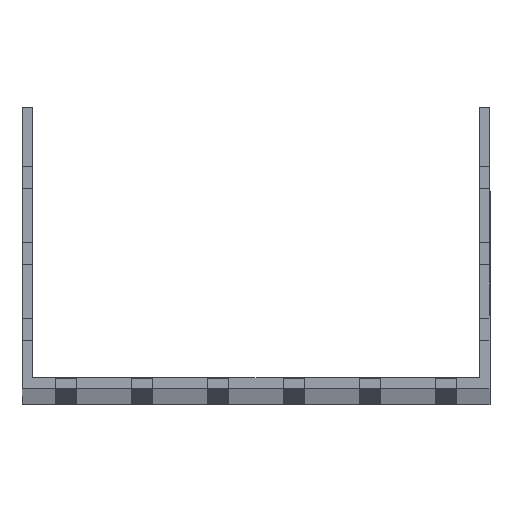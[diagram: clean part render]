
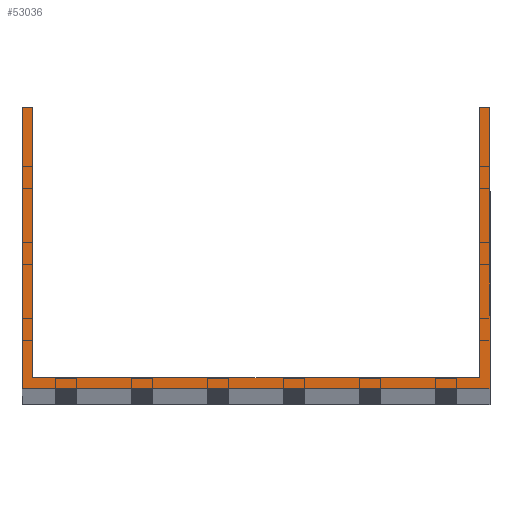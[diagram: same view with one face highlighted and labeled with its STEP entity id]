
A CAD part, top view. The second image highlights one B-rep face of the part: STEP entity #53036.
In plain terms, the highlighted planar face has unit normal (0, 0, 1).
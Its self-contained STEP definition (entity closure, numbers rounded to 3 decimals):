
#2133 = LINE ( 'NONE', #102693, #112317 ) ;
#2730 = DIRECTION ( 'NONE',  ( -1., 0., 0. ) ) ;
#4998 = CARTESIAN_POINT ( 'NONE',  ( 77., 92.5, 1500. ) ) ;
#6601 = LINE ( 'NONE', #35144, #39562 ) ;
#8668 = LINE ( 'NONE', #99134, #41124 ) ;
#9513 = DIRECTION ( 'NONE',  ( 1., 0., 0. ) ) ;
#9801 = LINE ( 'NONE', #91325, #106768 ) ;
#12263 = CARTESIAN_POINT ( 'NONE',  ( -73.5, 92.5, 1500. ) ) ;
#12870 = EDGE_CURVE ( 'NONE', #109674, #78067, #85256, .T. ) ;
#14037 = EDGE_CURVE ( 'NONE', #84992, #76259, #2133, .T. ) ;
#14504 = DIRECTION ( 'NONE',  ( 0., 1., 0. ) ) ;
#14953 = VECTOR ( 'NONE', #55446, 1000. ) ;
#16111 = DIRECTION ( 'NONE',  ( 0., 1., 0. ) ) ;
#19135 = CARTESIAN_POINT ( 'NONE',  ( -77., 92.5, 1500. ) ) ;
#20157 = CARTESIAN_POINT ( 'NONE',  ( -77., 0., 1500. ) ) ;
#20716 = EDGE_CURVE ( 'NONE', #96741, #107179, #103917, .T. ) ;
#24566 = EDGE_CURVE ( 'NONE', #28233, #78067, #6601, .T. ) ;
#26122 = CARTESIAN_POINT ( 'NONE',  ( 77., 0., 1500. ) ) ;
#28233 = VERTEX_POINT ( 'NONE', #49744 ) ;
#29345 = DIRECTION ( 'NONE',  ( -1., 0., 0. ) ) ;
#34058 = ORIENTED_EDGE ( 'NONE', *, *, #44603, .F. ) ;
#35144 = CARTESIAN_POINT ( 'NONE',  ( 73.5, 92.5, 1500. ) ) ;
#37171 = DIRECTION ( 'NONE',  ( 1., 0., 0. ) ) ;
#38566 = ORIENTED_EDGE ( 'NONE', *, *, #76621, .T. ) ;
#39562 = VECTOR ( 'NONE', #16111, 1000. ) ;
#40039 = CARTESIAN_POINT ( 'NONE',  ( -77., 92.5, 1500. ) ) ;
#40255 = CARTESIAN_POINT ( 'NONE',  ( -77., 0., 1500. ) ) ;
#41124 = VECTOR ( 'NONE', #114661, 1000. ) ;
#44603 = EDGE_CURVE ( 'NONE', #67135, #28233, #9801, .T. ) ;
#45738 = ORIENTED_EDGE ( 'NONE', *, *, #80940, .T. ) ;
#46640 = ORIENTED_EDGE ( 'NONE', *, *, #12870, .T. ) ;
#48770 = CARTESIAN_POINT ( 'NONE',  ( -77., 92.5, 1500. ) ) ;
#49744 = CARTESIAN_POINT ( 'NONE',  ( 73.5, 3.5, 1500. ) ) ;
#53036 = ADVANCED_FACE ( 'NONE', ( #55333 ), #91623, .T. ) ;
#55333 = FACE_OUTER_BOUND ( 'NONE', #113915, .T. ) ;
#55446 = DIRECTION ( 'NONE',  ( 0., -1., 0. ) ) ;
#58333 = ORIENTED_EDGE ( 'NONE', *, *, #20716, .T. ) ;
#60755 = VECTOR ( 'NONE', #29345, 1000. ) ;
#63701 = VECTOR ( 'NONE', #105091, 1000. ) ;
#65165 = CARTESIAN_POINT ( 'NONE',  ( 73.5, 92.5, 1500. ) ) ;
#66077 = ORIENTED_EDGE ( 'NONE', *, *, #14037, .T. ) ;
#67135 = VERTEX_POINT ( 'NONE', #80526 ) ;
#74476 = LINE ( 'NONE', #19135, #14953 ) ;
#76259 = VERTEX_POINT ( 'NONE', #48770 ) ;
#76621 = EDGE_CURVE ( 'NONE', #107179, #109674, #96032, .T. ) ;
#78067 = VERTEX_POINT ( 'NONE', #65165 ) ;
#80526 = CARTESIAN_POINT ( 'NONE',  ( -73.5, 3.5, 1500. ) ) ;
#80940 = EDGE_CURVE ( 'NONE', #76259, #96741, #74476, .T. ) ;
#84992 = VERTEX_POINT ( 'NONE', #12263 ) ;
#85256 = LINE ( 'NONE', #40039, #60755 ) ;
#91325 = CARTESIAN_POINT ( 'NONE',  ( -77., 3.5, 1500. ) ) ;
#91623 = PLANE ( 'NONE',  #94818 ) ;
#94818 = AXIS2_PLACEMENT_3D ( 'NONE', #109485, #110072, #9513 ) ;
#96032 = LINE ( 'NONE', #4998, #98123 ) ;
#96741 = VERTEX_POINT ( 'NONE', #20157 ) ;
#97734 = CARTESIAN_POINT ( 'NONE',  ( 77., 92.5, 1500. ) ) ;
#98123 = VECTOR ( 'NONE', #14504, 1000. ) ;
#99134 = CARTESIAN_POINT ( 'NONE',  ( -73.5, 92.5, 1500. ) ) ;
#102671 = ORIENTED_EDGE ( 'NONE', *, *, #24566, .F. ) ;
#102693 = CARTESIAN_POINT ( 'NONE',  ( -77., 92.5, 1500. ) ) ;
#103917 = LINE ( 'NONE', #40255, #63701 ) ;
#104375 = EDGE_CURVE ( 'NONE', #84992, #67135, #8668, .T. ) ;
#105091 = DIRECTION ( 'NONE',  ( 1., 0., 0. ) ) ;
#106768 = VECTOR ( 'NONE', #37171, 1000. ) ;
#107179 = VERTEX_POINT ( 'NONE', #26122 ) ;
#109485 = CARTESIAN_POINT ( 'NONE',  ( 0., 0., 1500. ) ) ;
#109674 = VERTEX_POINT ( 'NONE', #97734 ) ;
#110072 = DIRECTION ( 'NONE',  ( 0., 0., 1. ) ) ;
#112317 = VECTOR ( 'NONE', #2730, 1000. ) ;
#113915 = EDGE_LOOP ( 'NONE', ( #117551, #66077, #45738, #58333, #38566, #46640, #102671, #34058 ) ) ;
#114661 = DIRECTION ( 'NONE',  ( 0., -1., 0. ) ) ;
#117551 = ORIENTED_EDGE ( 'NONE', *, *, #104375, .F. ) ;
